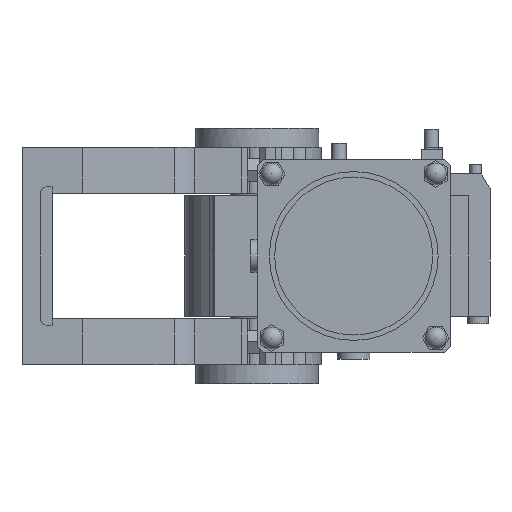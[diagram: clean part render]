
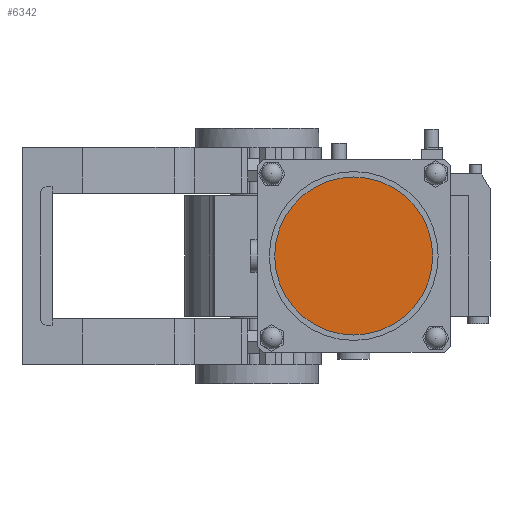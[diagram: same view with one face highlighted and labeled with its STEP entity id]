
A CAD part, front view. The second image highlights one B-rep face of the part: STEP entity #6342.
In plain terms, the highlighted planar face has unit normal (0, -1, 0).
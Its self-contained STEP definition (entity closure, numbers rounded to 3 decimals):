
#1476=PLANE('',#7023);
#1982=FACE_OUTER_BOUND('',#2468,.T.);
#2468=EDGE_LOOP('',(#5142));
#2793=CIRCLE('',#6934,65.5);
#3113=VERTEX_POINT('',#9775);
#3773=EDGE_CURVE('',#3113,#3113,#2793,.T.);
#5142=ORIENTED_EDGE('',*,*,#3773,.T.);
#6342=ADVANCED_FACE('',(#1982),#1476,.T.);
#6934=AXIS2_PLACEMENT_3D('',#9776,#7926,#7927);
#7023=AXIS2_PLACEMENT_3D('',#10088,#8224,#8225);
#7926=DIRECTION('center_axis',(0.,-1.,0.));
#7927=DIRECTION('ref_axis',(0.,0.,-1.));
#8224=DIRECTION('center_axis',(0.,-1.,0.));
#8225=DIRECTION('ref_axis',(0.,0.,-1.));
#9775=CARTESIAN_POINT('',(80.,-612.5,65.5));
#9776=CARTESIAN_POINT('Origin',(80.,-612.5,0.));
#10088=CARTESIAN_POINT('Origin',(80.,-612.5,0.));
